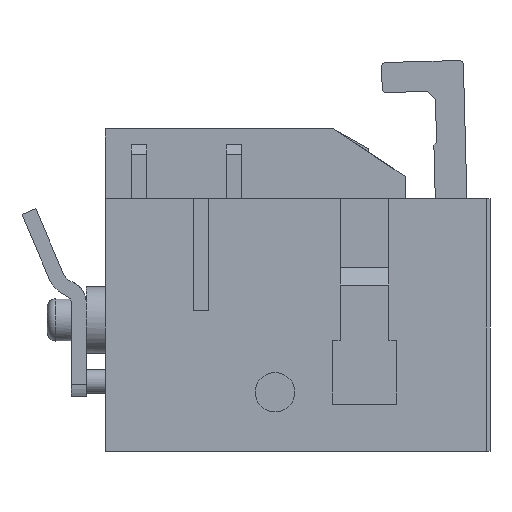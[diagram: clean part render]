
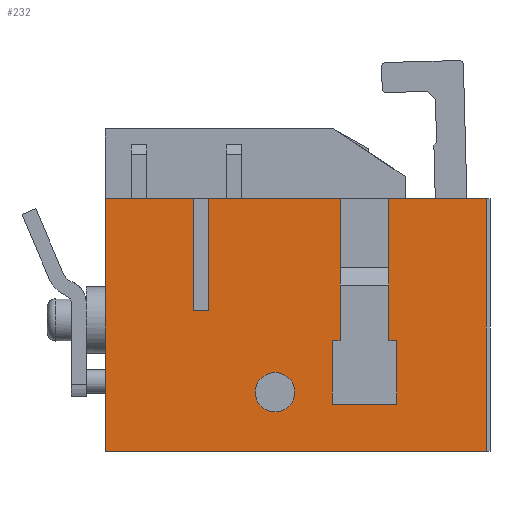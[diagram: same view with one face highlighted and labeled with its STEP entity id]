
A CAD part, left-side view. The second image highlights one B-rep face of the part: STEP entity #232.
In plain terms, the highlighted planar face has unit normal (-1, 0, 0).
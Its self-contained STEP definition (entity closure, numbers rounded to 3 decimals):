
#106=FACE_BOUND('',#845,.T.);
#107=FACE_BOUND('',#846,.T.);
#142=CIRCLE('',#4153,2.5);
#232=ADVANCED_FACE('',(#106,#107),#448,.T.);
#448=PLANE('',#4154);
#845=EDGE_LOOP('',(#1223,#1224,#1225,#1226,#1227,#1228,#1229,#1230,#1231,
#1232,#1233,#1234,#1235,#1236,#1237,#1238,#1239,#1240));
#846=EDGE_LOOP('',(#1241));
#1223=ORIENTED_EDGE('',*,*,#2700,.F.);
#1224=ORIENTED_EDGE('',*,*,#2701,.F.);
#1225=ORIENTED_EDGE('',*,*,#2621,.F.);
#1226=ORIENTED_EDGE('',*,*,#2698,.F.);
#1227=ORIENTED_EDGE('',*,*,#2702,.T.);
#1228=ORIENTED_EDGE('',*,*,#2693,.T.);
#1229=ORIENTED_EDGE('',*,*,#2617,.F.);
#1230=ORIENTED_EDGE('',*,*,#2703,.F.);
#1231=ORIENTED_EDGE('',*,*,#2704,.T.);
#1232=ORIENTED_EDGE('',*,*,#2705,.T.);
#1233=ORIENTED_EDGE('',*,*,#2625,.F.);
#1234=ORIENTED_EDGE('',*,*,#2706,.T.);
#1235=ORIENTED_EDGE('',*,*,#2707,.T.);
#1236=ORIENTED_EDGE('',*,*,#2708,.T.);
#1237=ORIENTED_EDGE('',*,*,#2709,.F.);
#1238=ORIENTED_EDGE('',*,*,#2710,.T.);
#1239=ORIENTED_EDGE('',*,*,#2711,.T.);
#1240=ORIENTED_EDGE('',*,*,#2588,.T.);
#1241=ORIENTED_EDGE('',*,*,#2712,.T.);
#2206=VERTEX_POINT('',#5455);
#2208=VERTEX_POINT('',#5458);
#2236=VERTEX_POINT('',#5515);
#2237=VERTEX_POINT('',#5517);
#2240=VERTEX_POINT('',#5523);
#2241=VERTEX_POINT('',#5525);
#2244=VERTEX_POINT('',#5531);
#2245=VERTEX_POINT('',#5533);
#2292=VERTEX_POINT('',#5672);
#2295=VERTEX_POINT('',#5680);
#2296=VERTEX_POINT('',#5686);
#2297=VERTEX_POINT('',#5690);
#2298=VERTEX_POINT('',#5692);
#2299=VERTEX_POINT('',#5695);
#2300=VERTEX_POINT('',#5697);
#2301=VERTEX_POINT('',#5699);
#2302=VERTEX_POINT('',#5701);
#2303=VERTEX_POINT('',#5703);
#2304=VERTEX_POINT('',#5706);
#2588=EDGE_CURVE('',#2208,#2206,#3165,.T.);
#2617=EDGE_CURVE('',#2236,#2237,#3192,.T.);
#2621=EDGE_CURVE('',#2240,#2241,#3196,.T.);
#2625=EDGE_CURVE('',#2244,#2245,#3200,.T.);
#2693=EDGE_CURVE('',#2292,#2237,#3264,.T.);
#2698=EDGE_CURVE('',#2295,#2240,#3269,.T.);
#2700=EDGE_CURVE('',#2296,#2206,#3271,.T.);
#2701=EDGE_CURVE('',#2241,#2296,#3272,.T.);
#2702=EDGE_CURVE('',#2295,#2292,#3273,.T.);
#2703=EDGE_CURVE('',#2297,#2236,#3274,.T.);
#2704=EDGE_CURVE('',#2297,#2298,#3275,.T.);
#2705=EDGE_CURVE('',#2298,#2245,#3276,.T.);
#2706=EDGE_CURVE('',#2244,#2299,#3277,.T.);
#2707=EDGE_CURVE('',#2299,#2300,#3278,.T.);
#2708=EDGE_CURVE('',#2300,#2301,#3279,.T.);
#2709=EDGE_CURVE('',#2302,#2301,#3280,.T.);
#2710=EDGE_CURVE('',#2302,#2303,#3281,.T.);
#2711=EDGE_CURVE('',#2303,#2208,#3282,.T.);
#2712=EDGE_CURVE('',#2304,#2304,#142,.T.);
#3165=LINE('',#5457,#3642);
#3192=LINE('',#5516,#3669);
#3196=LINE('',#5524,#3673);
#3200=LINE('',#5532,#3677);
#3264=LINE('',#5671,#3741);
#3269=LINE('',#5681,#3746);
#3271=LINE('',#5685,#3748);
#3272=LINE('',#5687,#3749);
#3273=LINE('',#5688,#3750);
#3274=LINE('',#5689,#3751);
#3275=LINE('',#5691,#3752);
#3276=LINE('',#5693,#3753);
#3277=LINE('',#5694,#3754);
#3278=LINE('',#5696,#3755);
#3279=LINE('',#5698,#3756);
#3280=LINE('',#5700,#3757);
#3281=LINE('',#5702,#3758);
#3282=LINE('',#5704,#3759);
#3642=VECTOR('',#4407,1.);
#3669=VECTOR('',#4440,1.);
#3673=VECTOR('',#4444,1.);
#3677=VECTOR('',#4448,1.);
#3741=VECTOR('',#4568,1.);
#3746=VECTOR('',#4575,1.);
#3748=VECTOR('',#4581,1.);
#3749=VECTOR('',#4582,1.);
#3750=VECTOR('',#4583,1.);
#3751=VECTOR('',#4584,1.);
#3752=VECTOR('',#4585,1.);
#3753=VECTOR('',#4586,1.);
#3754=VECTOR('',#4587,1.);
#3755=VECTOR('',#4588,1.);
#3756=VECTOR('',#4589,1.);
#3757=VECTOR('',#4590,1.);
#3758=VECTOR('',#4591,1.);
#3759=VECTOR('',#4592,1.);
#4153=AXIS2_PLACEMENT_3D('',#5705,#4593,#4594);
#4154=AXIS2_PLACEMENT_3D('',#5707,#4595,#4596);
#4407=DIRECTION('',(0.,-1.,0.));
#4440=DIRECTION('',(0.,-1.,0.));
#4444=DIRECTION('',(0.,-1.,0.));
#4448=DIRECTION('',(0.,-1.,0.));
#4568=DIRECTION('',(0.,0.,1.));
#4575=DIRECTION('',(0.,0.,1.));
#4581=DIRECTION('',(0.,0.,-1.));
#4582=DIRECTION('',(0.,0.,-1.));
#4583=DIRECTION('',(0.,1.,0.));
#4584=DIRECTION('',(0.,0.,1.));
#4585=DIRECTION('',(0.,-1.,0.));
#4586=DIRECTION('',(0.,0.,1.));
#4587=DIRECTION('',(0.,0.,-1.));
#4588=DIRECTION('',(0.,0.,-1.));
#4589=DIRECTION('',(0.,-1.,0.));
#4590=DIRECTION('',(0.,0.,1.));
#4591=DIRECTION('',(0.,1.,0.));
#4592=DIRECTION('',(0.,0.,1.));
#4593=DIRECTION('',(1.,0.,0.));
#4594=DIRECTION('',(0.,0.,1.));
#4595=DIRECTION('',(-1.,0.,0.));
#4596=DIRECTION('',(0.,0.,1.));
#5455=CARTESIAN_POINT('',(-39.539,-43.39,-18.));
#5457=CARTESIAN_POINT('',(-39.539,0.,-18.));
#5458=CARTESIAN_POINT('',(-39.539,-42.39,-18.));
#5515=CARTESIAN_POINT('',(-39.539,-13.64,0.));
#5516=CARTESIAN_POINT('',(-39.539,-26.79,0.));
#5517=CARTESIAN_POINT('',(-39.539,-24.89,0.));
#5523=CARTESIAN_POINT('',(-39.539,-26.79,0.));
#5524=CARTESIAN_POINT('',(-39.539,-26.79,0.));
#5525=CARTESIAN_POINT('',(-39.539,-43.39,0.));
#5531=CARTESIAN_POINT('',(-39.539,-49.54,0.));
#5532=CARTESIAN_POINT('',(-39.539,-26.79,0.));
#5533=CARTESIAN_POINT('',(-39.539,-61.84,0.));
#5671=CARTESIAN_POINT('',(-39.539,-24.89,-32.));
#5672=CARTESIAN_POINT('',(-39.539,-24.89,-14.2));
#5680=CARTESIAN_POINT('',(-39.539,-26.79,-14.2));
#5681=CARTESIAN_POINT('',(-39.539,-26.79,-32.));
#5685=CARTESIAN_POINT('',(-39.539,-43.39,-7.2));
#5686=CARTESIAN_POINT('',(-39.539,-43.39,-10.2));
#5687=CARTESIAN_POINT('',(-39.539,-43.39,13.3));
#5688=CARTESIAN_POINT('',(-39.539,0.,-14.2));
#5689=CARTESIAN_POINT('',(-39.539,-13.64,-32.));
#5690=CARTESIAN_POINT('',(-39.539,-13.64,-32.));
#5691=CARTESIAN_POINT('',(-39.539,-13.64,-32.));
#5692=CARTESIAN_POINT('',(-39.539,-61.84,-32.));
#5693=CARTESIAN_POINT('',(-39.539,-61.84,-32.));
#5694=CARTESIAN_POINT('',(-39.539,-49.54,13.3));
#5695=CARTESIAN_POINT('',(-39.539,-49.54,-10.2));
#5696=CARTESIAN_POINT('',(-39.539,-49.54,-7.2));
#5697=CARTESIAN_POINT('',(-39.539,-49.54,-18.));
#5698=CARTESIAN_POINT('',(-39.539,0.,-18.));
#5699=CARTESIAN_POINT('',(-39.539,-50.54,-18.));
#5700=CARTESIAN_POINT('',(-39.539,-50.54,-28.7));
#5701=CARTESIAN_POINT('',(-39.539,-50.54,-26.));
#5702=CARTESIAN_POINT('',(-39.539,-37.74,-26.));
#5703=CARTESIAN_POINT('',(-39.539,-42.39,-26.));
#5704=CARTESIAN_POINT('',(-39.539,-42.39,-28.7));
#5705=CARTESIAN_POINT('',(-39.539,-35.14,-24.5));
#5706=CARTESIAN_POINT('',(-39.539,-35.14,-22.));
#5707=CARTESIAN_POINT('',(-39.539,-26.79,-32.));
